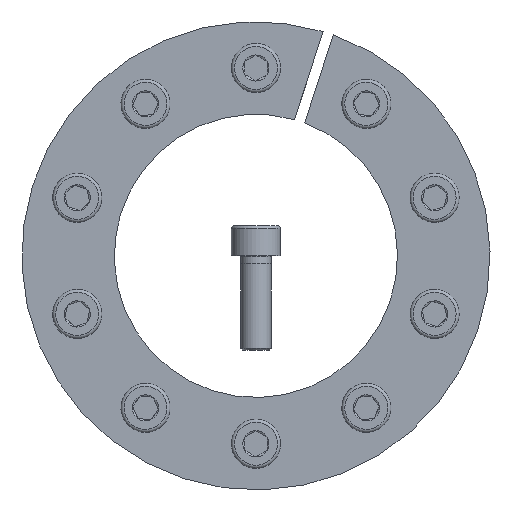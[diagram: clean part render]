
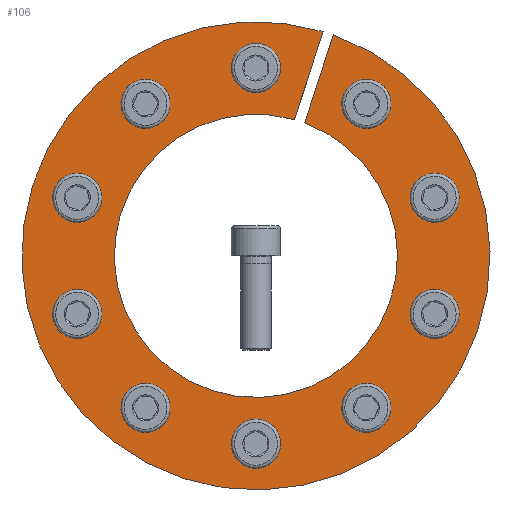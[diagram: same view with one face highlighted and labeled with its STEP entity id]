
A CAD part, front view. The second image highlights one B-rep face of the part: STEP entity #106.
In plain terms, the highlighted planar face has unit normal (0, -1, 0).
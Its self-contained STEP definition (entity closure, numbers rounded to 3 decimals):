
#106 = ADVANCED_FACE( '', ( #247, #248, #249, #250, #251, #252, #253, #254, #255, #256, #257 ), #258, .F. );
#247 = FACE_BOUND( '', #437, .T. );
#248 = FACE_BOUND( '', #438, .T. );
#249 = FACE_BOUND( '', #439, .T. );
#250 = FACE_BOUND( '', #440, .T. );
#251 = FACE_BOUND( '', #441, .T. );
#252 = FACE_BOUND( '', #442, .T. );
#253 = FACE_BOUND( '', #443, .T. );
#254 = FACE_BOUND( '', #444, .T. );
#255 = FACE_BOUND( '', #445, .T. );
#256 = FACE_BOUND( '', #446, .T. );
#257 = FACE_OUTER_BOUND( '', #447, .T. );
#258 = PLANE( '', #448 );
#437 = EDGE_LOOP( '', ( #714 ) );
#438 = EDGE_LOOP( '', ( #715 ) );
#439 = EDGE_LOOP( '', ( #716 ) );
#440 = EDGE_LOOP( '', ( #717 ) );
#441 = EDGE_LOOP( '', ( #718 ) );
#442 = EDGE_LOOP( '', ( #719 ) );
#443 = EDGE_LOOP( '', ( #720 ) );
#444 = EDGE_LOOP( '', ( #721 ) );
#445 = EDGE_LOOP( '', ( #722 ) );
#446 = EDGE_LOOP( '', ( #723 ) );
#447 = EDGE_LOOP( '', ( #724, #725, #726, #727 ) );
#448 = AXIS2_PLACEMENT_3D( '', #728, #729, #730 );
#714 = ORIENTED_EDGE( '', *, *, #974, .T. );
#715 = ORIENTED_EDGE( '', *, *, #975, .T. );
#716 = ORIENTED_EDGE( '', *, *, #976, .T. );
#717 = ORIENTED_EDGE( '', *, *, #977, .T. );
#718 = ORIENTED_EDGE( '', *, *, #978, .T. );
#719 = ORIENTED_EDGE( '', *, *, #979, .T. );
#720 = ORIENTED_EDGE( '', *, *, #980, .T. );
#721 = ORIENTED_EDGE( '', *, *, #957, .T. );
#722 = ORIENTED_EDGE( '', *, *, #965, .T. );
#723 = ORIENTED_EDGE( '', *, *, #925, .T. );
#724 = ORIENTED_EDGE( '', *, *, #981, .T. );
#725 = ORIENTED_EDGE( '', *, *, #969, .T. );
#726 = ORIENTED_EDGE( '', *, *, #928, .T. );
#727 = ORIENTED_EDGE( '', *, *, #960, .F. );
#728 = CARTESIAN_POINT( '', ( 0., 0., 62. ) );
#729 = DIRECTION( '', ( 0., 1., 0. ) );
#730 = DIRECTION( '', ( 0., 0., 1. ) );
#925 = EDGE_CURVE( '', #1105, #1105, #1106, .T. );
#928 = EDGE_CURVE( '', #1111, #1109, #1112, .T. );
#957 = EDGE_CURVE( '', #1158, #1158, #1159, .T. );
#960 = EDGE_CURVE( '', #1162, #1109, #1164, .T. );
#965 = EDGE_CURVE( '', #1170, #1170, #1171, .T. );
#969 = EDGE_CURVE( '', #1174, #1111, #1177, .T. );
#974 = EDGE_CURVE( '', #1183, #1183, #1184, .T. );
#975 = EDGE_CURVE( '', #1185, #1185, #1186, .T. );
#976 = EDGE_CURVE( '', #1187, #1187, #1188, .T. );
#977 = EDGE_CURVE( '', #1189, #1189, #1190, .T. );
#978 = EDGE_CURVE( '', #1191, #1191, #1192, .T. );
#979 = EDGE_CURVE( '', #1193, #1193, #1194, .T. );
#980 = EDGE_CURVE( '', #1195, #1195, #1196, .T. );
#981 = EDGE_CURVE( '', #1162, #1174, #1197, .T. );
#1105 = VERTEX_POINT( '', #1416 );
#1106 = CIRCLE( '', #1417, 4. );
#1109 = VERTEX_POINT( '', #1420 );
#1111 = VERTEX_POINT( '', #1423 );
#1112 = LINE( '', #1424, #1425 );
#1158 = VERTEX_POINT( '', #1485 );
#1159 = CIRCLE( '', #1486, 4. );
#1162 = VERTEX_POINT( '', #1489 );
#1164 = CIRCLE( '', #1492, 37.5 );
#1170 = VERTEX_POINT( '', #1498 );
#1171 = CIRCLE( '', #1499, 4. );
#1174 = VERTEX_POINT( '', #1502 );
#1177 = CIRCLE( '', #1506, 62. );
#1183 = VERTEX_POINT( '', #1515 );
#1184 = CIRCLE( '', #1516, 4. );
#1185 = VERTEX_POINT( '', #1517 );
#1186 = CIRCLE( '', #1518, 4. );
#1187 = VERTEX_POINT( '', #1519 );
#1188 = CIRCLE( '', #1520, 4. );
#1189 = VERTEX_POINT( '', #1521 );
#1190 = CIRCLE( '', #1522, 4. );
#1191 = VERTEX_POINT( '', #1523 );
#1192 = CIRCLE( '', #1524, 4. );
#1193 = VERTEX_POINT( '', #1525 );
#1194 = CIRCLE( '', #1526, 4. );
#1195 = VERTEX_POINT( '', #1527 );
#1196 = CIRCLE( '', #1528, 4. );
#1197 = LINE( '', #1529, #1530 );
#1416 = CARTESIAN_POINT( '', ( -46.079, 0., 19.178 ) );
#1417 = AXIS2_PLACEMENT_3D( '', #1645, #1646, #1647 );
#1420 = CARTESIAN_POINT( '', ( 12.947, 0., 35.194 ) );
#1423 = CARTESIAN_POINT( '', ( 20.521, 0., 58.505 ) );
#1424 = CARTESIAN_POINT( '', ( 20.526, 0., 58.521 ) );
#1425 = VECTOR( '', #1649, 1000. );
#1485 = CARTESIAN_POINT( '', ( 26.006, 0., -42.6 ) );
#1486 = AXIS2_PLACEMENT_3D( '', #1694, #1695, #1696 );
#1489 = CARTESIAN_POINT( '', ( 10.212, 0., 36.083 ) );
#1492 = AXIS2_PLACEMENT_3D( '', #1698, #1699, #1700 );
#1498 = CARTESIAN_POINT( '', ( -32.478, 0., -37.897 ) );
#1499 = AXIS2_PLACEMENT_3D( '', #1707, #1708, #1709 );
#1502 = CARTESIAN_POINT( '', ( 17.787, 0., 59.394 ) );
#1506 = AXIS2_PLACEMENT_3D( '', #1714, #1715, #1716 );
#1515 = CARTESIAN_POINT( '', ( -26.006, 0., 42.6 ) );
#1516 = AXIS2_PLACEMENT_3D( '', #1720, #1721, #1722 );
#1517 = CARTESIAN_POINT( '', ( -48.551, 0., -11.569 ) );
#1518 = AXIS2_PLACEMENT_3D( '', #1723, #1724, #1725 );
#1519 = CARTESIAN_POINT( '', ( -4., 0., -49.75 ) );
#1520 = AXIS2_PLACEMENT_3D( '', #1726, #1727, #1728 );
#1521 = CARTESIAN_POINT( '', ( 46.079, 0., -19.178 ) );
#1522 = AXIS2_PLACEMENT_3D( '', #1729, #1730, #1731 );
#1523 = CARTESIAN_POINT( '', ( 32.478, 0., 37.897 ) );
#1524 = AXIS2_PLACEMENT_3D( '', #1732, #1733, #1734 );
#1525 = CARTESIAN_POINT( '', ( 4., 0., 49.75 ) );
#1526 = AXIS2_PLACEMENT_3D( '', #1735, #1736, #1737 );
#1527 = CARTESIAN_POINT( '', ( 48.551, 0., 11.569 ) );
#1528 = AXIS2_PLACEMENT_3D( '', #1738, #1739, #1740 );
#1529 = CARTESIAN_POINT( '', ( 10.212, 0., 36.083 ) );
#1530 = VECTOR( '', #1741, 1000. );
#1645 = CARTESIAN_POINT( '', ( -47.315, 0., 15.374 ) );
#1646 = DIRECTION( '', ( 0., 1., 0. ) );
#1647 = DIRECTION( '', ( 0.309, 0., 0.951 ) );
#1649 = DIRECTION( '', ( -0.309, 0., -0.951 ) );
#1694 = CARTESIAN_POINT( '', ( 29.242, 0., -40.249 ) );
#1695 = DIRECTION( '', ( 0., 1., 0. ) );
#1696 = DIRECTION( '', ( -0.809, 0., -0.588 ) );
#1698 = CARTESIAN_POINT( '', ( 0., 0., 0. ) );
#1699 = DIRECTION( '', ( 0., -1., 0. ) );
#1700 = DIRECTION( '', ( 0., 0., -1. ) );
#1707 = CARTESIAN_POINT( '', ( -29.242, 0., -40.249 ) );
#1708 = DIRECTION( '', ( 0., 1., 0. ) );
#1709 = DIRECTION( '', ( -0.809, 0., 0.588 ) );
#1714 = CARTESIAN_POINT( '', ( 0., 0., 0. ) );
#1715 = DIRECTION( '', ( 0., -1., 0. ) );
#1716 = DIRECTION( '', ( 0., 0., -1. ) );
#1720 = CARTESIAN_POINT( '', ( -29.242, 0., 40.249 ) );
#1721 = DIRECTION( '', ( 0., 1., 0. ) );
#1722 = DIRECTION( '', ( 0.809, 0., 0.588 ) );
#1723 = CARTESIAN_POINT( '', ( -47.315, 0., -15.374 ) );
#1724 = DIRECTION( '', ( 0., 1., 0. ) );
#1725 = DIRECTION( '', ( -0.309, 0., 0.951 ) );
#1726 = CARTESIAN_POINT( '', ( 0., 0., -49.75 ) );
#1727 = DIRECTION( '', ( 0., 1., 0. ) );
#1728 = DIRECTION( '', ( -1., 0., 0. ) );
#1729 = CARTESIAN_POINT( '', ( 47.315, 0., -15.374 ) );
#1730 = DIRECTION( '', ( 0., 1., 0. ) );
#1731 = DIRECTION( '', ( -0.309, 0., -0.951 ) );
#1732 = CARTESIAN_POINT( '', ( 29.242, 0., 40.249 ) );
#1733 = DIRECTION( '', ( 0., 1., 0. ) );
#1734 = DIRECTION( '', ( 0.809, 0., -0.588 ) );
#1735 = CARTESIAN_POINT( '', ( 0., 0., 49.75 ) );
#1736 = DIRECTION( '', ( 0., 1., 0. ) );
#1737 = DIRECTION( '', ( 1., 0., 0. ) );
#1738 = CARTESIAN_POINT( '', ( 47.315, 0., 15.374 ) );
#1739 = DIRECTION( '', ( 0., 1., 0. ) );
#1740 = DIRECTION( '', ( 0.309, 0., -0.951 ) );
#1741 = DIRECTION( '', ( 0.309, 0., 0.951 ) );
